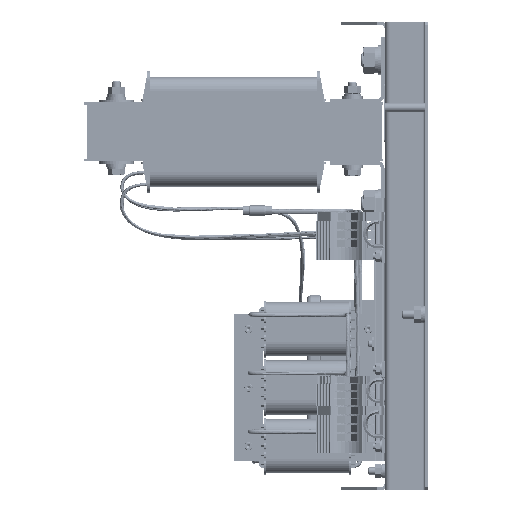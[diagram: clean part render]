
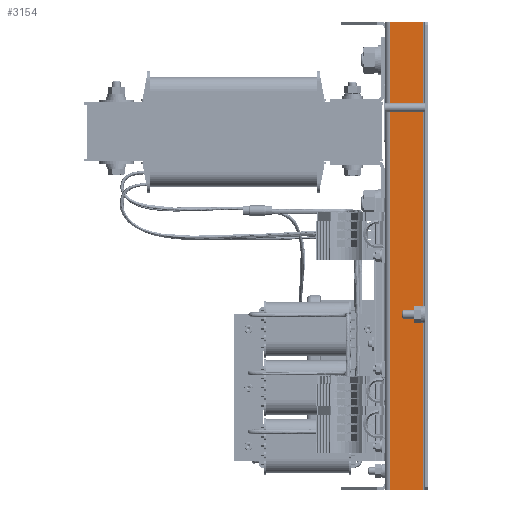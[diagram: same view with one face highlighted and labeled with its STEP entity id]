
A CAD part, left-side view. The second image highlights one B-rep face of the part: STEP entity #3154.
In plain terms, the highlighted planar face has unit normal (-1, 0, 0).
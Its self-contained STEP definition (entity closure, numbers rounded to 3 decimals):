
#307=DIRECTION('',(0.,0.,-1.));
#308=VECTOR('',#307,320.);
#309=CARTESIAN_POINT('',(-175.,-4.,160.));
#310=LINE('',#309,#308);
#790=DIRECTION('',(0.,-1.,0.));
#791=VECTOR('',#790,22.);
#792=CARTESIAN_POINT('',(-175.,-4.,-160.));
#793=LINE('',#792,#791);
#794=DIRECTION('',(0.,1.,0.));
#795=VECTOR('',#794,22.);
#796=CARTESIAN_POINT('',(-175.,-26.,160.));
#797=LINE('',#796,#795);
#925=DIRECTION('',(0.,0.,1.));
#926=VECTOR('',#925,320.);
#927=CARTESIAN_POINT('',(-175.,-26.,-160.));
#928=LINE('',#927,#926);
#1858=CARTESIAN_POINT('',(-175.,-26.,160.));
#1859=CARTESIAN_POINT('',(-175.,-4.,160.));
#1860=VERTEX_POINT('',#1858);
#1861=VERTEX_POINT('',#1859);
#1862=CARTESIAN_POINT('',(-175.,-4.,-160.));
#1863=CARTESIAN_POINT('',(-175.,-26.,-160.));
#1864=VERTEX_POINT('',#1862);
#1865=VERTEX_POINT('',#1863);
#3141=CARTESIAN_POINT('',(-175.,0.,-160.));
#3142=DIRECTION('',(-1.,0.,0.));
#3143=DIRECTION('',(0.,0.,-1.));
#3144=AXIS2_PLACEMENT_3D('',#3141,#3142,#3143);
#3145=PLANE('',#3144);
#3146=ORIENTED_EDGE('',*,*,#3131,.F.);
#3147=ORIENTED_EDGE('',*,*,#2637,.F.);
#3149=ORIENTED_EDGE('',*,*,#3148,.F.);
#3151=ORIENTED_EDGE('',*,*,#3150,.F.);
#3152=EDGE_LOOP('',(#3146,#3147,#3149,#3151));
#3153=FACE_OUTER_BOUND('',#3152,.F.);
#2637=EDGE_CURVE('',#1861,#1864,#310,.T.);
#3131=EDGE_CURVE('',#1864,#1865,#793,.T.);
#3148=EDGE_CURVE('',#1860,#1861,#797,.T.);
#3150=EDGE_CURVE('',#1865,#1860,#928,.T.);
#3154=ADVANCED_FACE('',(#3153),#3145,.T.);
